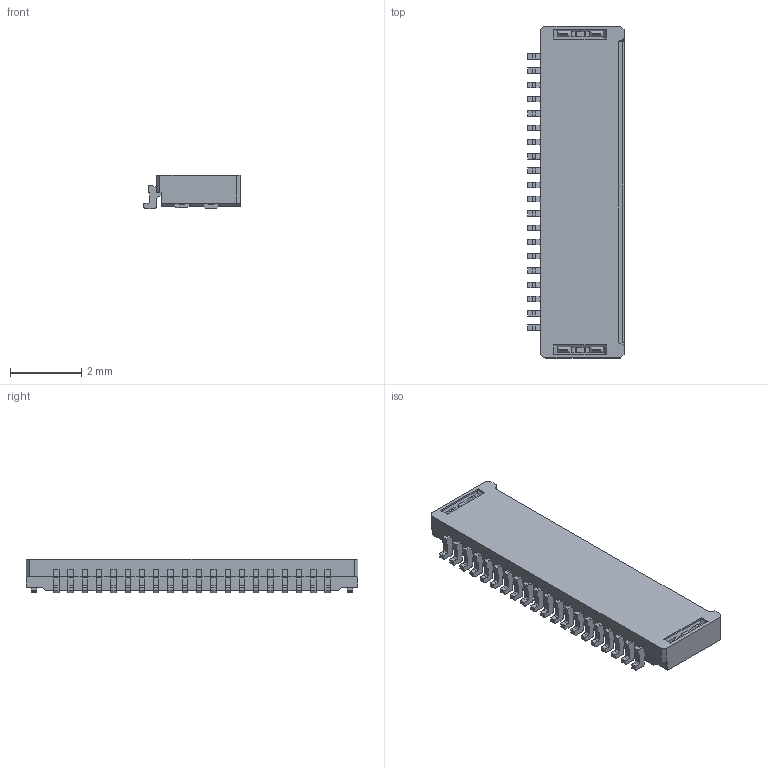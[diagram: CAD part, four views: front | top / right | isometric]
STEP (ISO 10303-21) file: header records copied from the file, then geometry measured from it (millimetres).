
FILE_DESCRIPTION (( 'STEP AP214' ), '1' );
FILE_NAME ('04_6824_620_000_846+.STEP', '2017-07-25T07:30:36', ( 'Asmin' ), ( '' ), 'SwSTEP 2.0', 'SolidWorks 2014', '' );
FILE_SCHEMA (( 'AUTOMOTIVE_DESIGN' ));
Length unit declared in the file: millimetre
Products named in the file (1): 04_6824_620_000_846+
Bounding box: 2.7 x 9.3 x 0.93 mm (x, y, z)
Volume: 13.1 mm3; surface area: 107.2 mm2
Topology: 1 solids, 1 shells, 468 faces, 1368 edges, 904 vertices
Faces by surface type: plane 355, cylinder 113
Entity records: 20507 total; most frequent: CARTESIAN_POINT 2747, ORIENTED_EDGE 2736, DIRECTION 2528, EDGE_CURVE 1368, VECTOR 1142, LINE 1142, VERTEX_POINT 904, AXIS2_PLACEMENT_3D 693
